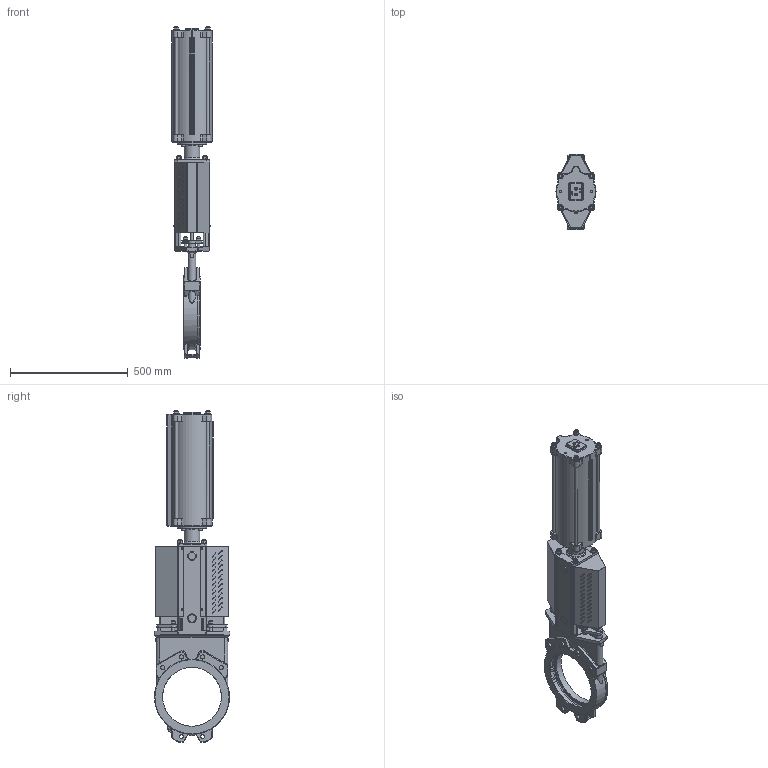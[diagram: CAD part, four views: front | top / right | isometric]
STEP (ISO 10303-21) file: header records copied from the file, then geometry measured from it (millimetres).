
FILE_DESCRIPTION(/* description */ (''),/* implementation_level */ '2;1');
FILE_NAME(/* name */ 'F:\Emir\3D-block special\MV VALVE\PNEUMATIC ACTUATOR\MV-DN250-PN10-FRSC160-320.stp',/* time_stamp */ '2018-03-28T13:36:37+02:00',/* author */ ('emimus'),/* organization */ (''),/* preprocessor_version */ 'ST-DEVELOPER v17',/* originating_system */ 'Autodesk Inventor 2018',/* authorisation */ '');
FILE_SCHEMA (('CONFIG_CONTROL_DESIGN'));
Products named in the file (1): MV-DN250-PN10-FRSC160-320
Bounding box: 170 x 320 x 1410 mm (x, y, z)
Volume: 8723718.4 mm3; surface area: 2457284.7 mm2
Topology: 3 solids, 3 shells, 2537 faces, 6633 edges, 4148 vertices
Faces by surface type: plane 950, cylinder 773, bspline 308, cone 214, torus 209, sphere 83
Full cylindrical faces by diameter (mm): 3 x10, 4 x6, 4.134 x4, 4.2 x16, 4.5 x4, 4.917 x4, 6.647 x1, 8 x2, 8.376 x2, 9.5 x4, 10 x11, 10.106 x8, 11.445 x2, 12 x28, 13 x14, 15 x8, 15.24 x2, 16 x6, 17.294 x12, 17.7 x1, 18 x4, 18.5 x1, 20 x1, 24 x16, 28 x4, 30 x1, 30.1 x2, 34 x1, 35 x1, 36 x1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
Entity records: 91811 total; most frequent: CARTESIAN_POINT 29816, DIRECTION 13208, ORIENTED_EDGE 13118, EDGE_CURVE 6559, AXIS2_PLACEMENT_3D 5301, VERTEX_POINT 4148, EDGE_LOOP 2861, CIRCLE 2810
